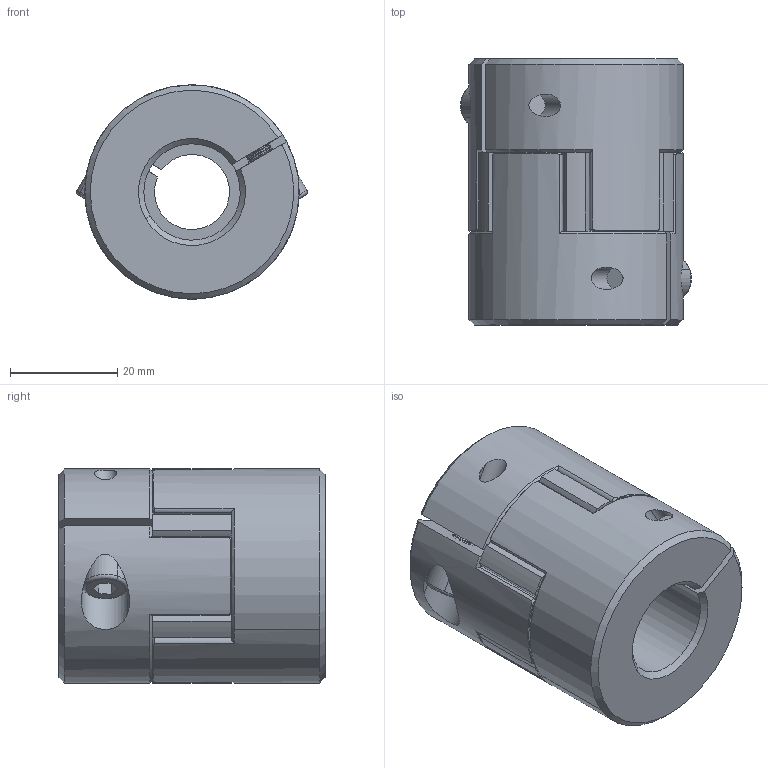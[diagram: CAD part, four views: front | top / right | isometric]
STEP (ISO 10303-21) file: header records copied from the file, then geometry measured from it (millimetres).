
FILE_DESCRIPTION (( 'STEP AP203' ), '1' );
FILE_NAME ('LF-B-D40L50-14-18.STEP', '2021-10-25T03:06:33', ( '' ), ( '' ), 'SwSTEP 2.0', 'SolidWorks 2018', '' );
FILE_SCHEMA (( 'CONFIG_CONTROL_DESIGN' ));
Length unit declared in the file: millimetre
Products named in the file (1): LF-B-D40L50-14-18
Bounding box: 43.11 x 49.7 x 40 mm (x, y, z)
Volume: 49831.3 mm3; surface area: 14599 mm2
Topology: 1 solids, 7 shells, 471 faces, 1117 edges, 662 vertices
Faces by surface type: cone 170, cylinder 169, plane 128, torus 4
Entity records: 13972 total; most frequent: CARTESIAN_POINT 2895, DIRECTION 2509, ORIENTED_EDGE 2226, EDGE_CURVE 1113, AXIS2_PLACEMENT_3D 1040, VERTEX_POINT 662, CIRCLE 568, EDGE_LOOP 487
